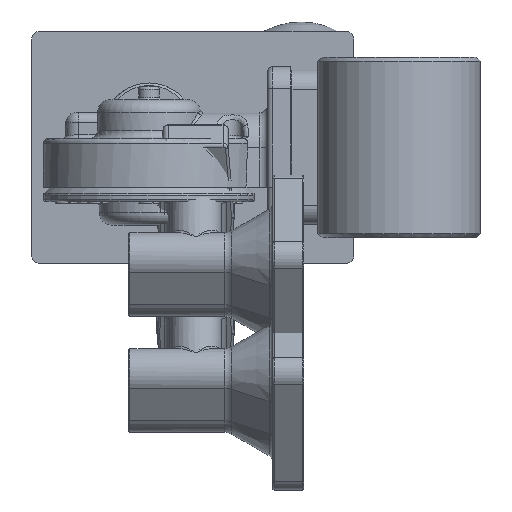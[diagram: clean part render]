
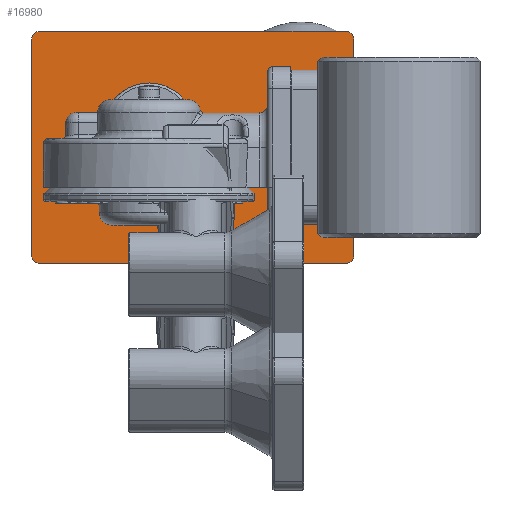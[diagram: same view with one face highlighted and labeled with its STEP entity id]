
A CAD part, left-side view. The second image highlights one B-rep face of the part: STEP entity #16980.
In plain terms, the highlighted planar face has unit normal (-1, 0, 0) as drawn and (0, 0, -1) by its records, which use the part's own axes.
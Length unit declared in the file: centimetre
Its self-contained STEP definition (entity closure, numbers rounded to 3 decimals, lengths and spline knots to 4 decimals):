
#2688=VECTOR('',#20866,1.);
#2689=VECTOR('',#20867,1.);
#2690=VECTOR('',#20870,1.);
#2691=VECTOR('',#20873,1.);
#2692=VECTOR('',#20876,1.);
#2693=VECTOR('',#20879,1.);
#2694=VECTOR('',#20882,1.);
#3755=LINE('',#34290,#2688);
#3756=LINE('',#34292,#2689);
#3757=LINE('',#34296,#2690);
#3758=LINE('',#34300,#2691);
#3759=LINE('',#34304,#2692);
#3760=LINE('',#34309,#2693);
#3761=LINE('',#34313,#2694);
#4958=PLANE('',#18111);
#6013=VERTEX_POINT('',#34275);
#6015=VERTEX_POINT('',#34280);
#6017=VERTEX_POINT('',#34285);
#6018=VERTEX_POINT('',#34288);
#6019=VERTEX_POINT('',#34289);
#6020=VERTEX_POINT('',#34291);
#6021=VERTEX_POINT('',#34293);
#6022=VERTEX_POINT('',#34295);
#6023=VERTEX_POINT('',#34297);
#6024=VERTEX_POINT('',#34299);
#6025=VERTEX_POINT('',#34301);
#6026=VERTEX_POINT('',#34303);
#6027=VERTEX_POINT('',#34305);
#6028=VERTEX_POINT('',#34307);
#6029=VERTEX_POINT('',#34308);
#6030=VERTEX_POINT('',#34310);
#6031=VERTEX_POINT('',#34312);
#6821=CIRCLE('',#18104,0.3019);
#6823=CIRCLE('',#18107,0.3019);
#6825=CIRCLE('',#18110,0.8983);
#6826=CIRCLE('',#18112,0.2);
#6827=CIRCLE('',#18113,0.3);
#6828=CIRCLE('',#18114,0.3);
#6829=CIRCLE('',#18115,0.3);
#6830=CIRCLE('',#18116,0.3);
#6831=CIRCLE('',#18117,0.2);
#8628=EDGE_CURVE('',#6013,#6013,#6821,.T.);
#8630=EDGE_CURVE('',#6015,#6015,#6823,.T.);
#8632=EDGE_CURVE('',#6017,#6017,#6825,.T.);
#8633=EDGE_CURVE('',#6018,#6019,#6826,.T.);
#8634=EDGE_CURVE('',#6018,#6020,#3755,.T.);
#8635=EDGE_CURVE('',#6021,#6020,#3756,.T.);
#8636=EDGE_CURVE('',#6022,#6021,#6827,.T.);
#8637=EDGE_CURVE('',#6023,#6022,#3757,.T.);
#8638=EDGE_CURVE('',#6024,#6023,#6828,.T.);
#8639=EDGE_CURVE('',#6025,#6024,#3758,.T.);
#8640=EDGE_CURVE('',#6026,#6025,#6829,.T.);
#8641=EDGE_CURVE('',#6027,#6026,#3759,.T.);
#8642=EDGE_CURVE('',#6028,#6027,#6830,.T.);
#8643=EDGE_CURVE('',#6029,#6028,#3756,.T.);
#8644=EDGE_CURVE('',#6029,#6030,#3760,.T.);
#8645=EDGE_CURVE('',#6031,#6030,#6831,.T.);
#8646=EDGE_CURVE('',#6031,#6019,#3761,.T.);
#12222=ORIENTED_EDGE('',*,*,#8628,.T.);
#12223=ORIENTED_EDGE('',*,*,#8630,.T.);
#12224=ORIENTED_EDGE('',*,*,#8632,.T.);
#12225=ORIENTED_EDGE('',*,*,#8633,.F.);
#12226=ORIENTED_EDGE('',*,*,#8634,.T.);
#12227=ORIENTED_EDGE('',*,*,#8635,.F.);
#12228=ORIENTED_EDGE('',*,*,#8636,.F.);
#12229=ORIENTED_EDGE('',*,*,#8637,.F.);
#12230=ORIENTED_EDGE('',*,*,#8638,.F.);
#12231=ORIENTED_EDGE('',*,*,#8639,.F.);
#12232=ORIENTED_EDGE('',*,*,#8640,.F.);
#12233=ORIENTED_EDGE('',*,*,#8641,.F.);
#12234=ORIENTED_EDGE('',*,*,#8642,.F.);
#12235=ORIENTED_EDGE('',*,*,#8643,.F.);
#12236=ORIENTED_EDGE('',*,*,#8644,.T.);
#12237=ORIENTED_EDGE('',*,*,#8645,.F.);
#12238=ORIENTED_EDGE('',*,*,#8646,.T.);
#14554=EDGE_LOOP('',(#12222));
#14555=EDGE_LOOP('',(#12223));
#14556=EDGE_LOOP('',(#12224));
#14557=EDGE_LOOP('',(#12225,#12226,#12227,#12228,#12229,#12230,#12231,#12232,
#12233,#12234,#12235,#12236,#12237,#12238));
#15846=FACE_BOUND('',#14554,.T.);
#15847=FACE_BOUND('',#14555,.T.);
#15848=FACE_BOUND('',#14556,.T.);
#15849=FACE_BOUND('',#14557,.T.);
#16980=ADVANCED_FACE('',(#15846,#15847,#15848,#15849),#4958,.F.);
#18104=AXIS2_PLACEMENT_3D('',#34274,#20849,#20850);
#18107=AXIS2_PLACEMENT_3D('',#34279,#20855,#20856);
#18110=AXIS2_PLACEMENT_3D('',#34284,#20861,#20862);
#18111=AXIS2_PLACEMENT_3D('',#34286,#20863,$);
#18112=AXIS2_PLACEMENT_3D('',#34287,#20864,#20865);
#18113=AXIS2_PLACEMENT_3D('',#34294,#20868,#20869);
#18114=AXIS2_PLACEMENT_3D('',#34298,#20871,#20872);
#18115=AXIS2_PLACEMENT_3D('',#34302,#20874,#20875);
#18116=AXIS2_PLACEMENT_3D('',#34306,#20877,#20878);
#18117=AXIS2_PLACEMENT_3D('',#34311,#20880,#20881);
#20849=DIRECTION('',(0.,0.,1.));
#20850=DIRECTION('',(0.302,0.,0.));
#20855=DIRECTION('',(0.,0.,1.));
#20856=DIRECTION('',(0.302,0.,0.));
#20861=DIRECTION('',(0.,0.,1.));
#20862=DIRECTION('',(0.898,0.,0.));
#20863=DIRECTION('',(0.,0.,1.));
#20864=DIRECTION('',(0.,0.,1.));
#20865=DIRECTION('',(-0.141,-0.141,0.));
#20866=DIRECTION('',(0.,1.,0.));
#20867=DIRECTION('',(1.,0.,0.));
#20868=DIRECTION('',(0.,0.,1.));
#20869=DIRECTION('',(-0.212,-0.212,0.));
#20870=DIRECTION('',(0.,-1.,0.));
#20871=DIRECTION('',(0.,0.,1.));
#20872=DIRECTION('',(-0.212,0.212,0.));
#20873=DIRECTION('',(-1.,0.,0.));
#20874=DIRECTION('',(0.,0.,1.));
#20875=DIRECTION('',(0.212,0.212,0.));
#20876=DIRECTION('',(0.,1.,0.));
#20877=DIRECTION('',(0.,0.,1.));
#20878=DIRECTION('',(0.212,-0.212,0.));
#20879=DIRECTION('',(0.,-1.,0.));
#20880=DIRECTION('',(0.,0.,1.));
#20881=DIRECTION('',(0.141,-0.141,0.));
#20882=DIRECTION('',(-1.,0.,0.));
#34274=CARTESIAN_POINT('',(-5.25,10.45,0.));
#34275=CARTESIAN_POINT('',(-5.5519,10.45,0.));
#34279=CARTESIAN_POINT('',(-5.25,2.95,0.));
#34280=CARTESIAN_POINT('',(-5.5519,2.95,0.));
#34284=CARTESIAN_POINT('',(-5.25,7.95,0.));
#34285=CARTESIAN_POINT('',(-6.1483,7.95,0.));
#34286=CARTESIAN_POINT('',(-4.5,6.25,0.));
#34287=CARTESIAN_POINT('',(-7.7,-0.2,0.));
#34288=CARTESIAN_POINT('',(-7.9,-0.2,0.));
#34289=CARTESIAN_POINT('',(-7.7,-0.4,0.));
#34290=CARTESIAN_POINT('',(-7.9,3.042,0.));
#34291=CARTESIAN_POINT('',(-7.9,0.,0.));
#34292=CARTESIAN_POINT('',(-9.,0.,0.));
#34293=CARTESIAN_POINT('',(-8.7,0.,0.));
#34294=CARTESIAN_POINT('',(-8.7,0.3,0.));
#34295=CARTESIAN_POINT('',(-9.,0.3,0.));
#34296=CARTESIAN_POINT('',(-9.,12.5,0.));
#34297=CARTESIAN_POINT('',(-9.,12.2,0.));
#34298=CARTESIAN_POINT('',(-8.7,12.2,0.));
#34299=CARTESIAN_POINT('',(-8.7,12.5,0.));
#34300=CARTESIAN_POINT('',(0.,12.5,0.));
#34301=CARTESIAN_POINT('',(-0.3,12.5,0.));
#34302=CARTESIAN_POINT('',(-0.3,12.2,0.));
#34303=CARTESIAN_POINT('',(0.,12.2,0.));
#34304=CARTESIAN_POINT('',(0.,0.,0.));
#34305=CARTESIAN_POINT('',(0.,0.3,0.));
#34306=CARTESIAN_POINT('',(-0.3,0.3,0.));
#34307=CARTESIAN_POINT('',(-0.3,0.,0.));
#34308=CARTESIAN_POINT('',(-1.1,0.,0.));
#34309=CARTESIAN_POINT('',(-1.1,3.042,0.));
#34310=CARTESIAN_POINT('',(-1.1,-0.2,0.));
#34311=CARTESIAN_POINT('',(-1.3,-0.2,0.));
#34312=CARTESIAN_POINT('',(-1.3,-0.4,0.));
#34313=CARTESIAN_POINT('',(-4.5,-0.4,0.));
